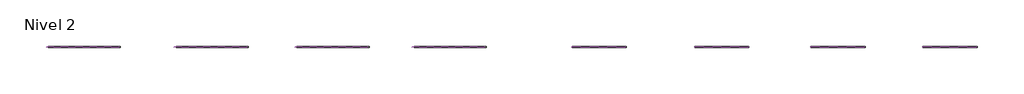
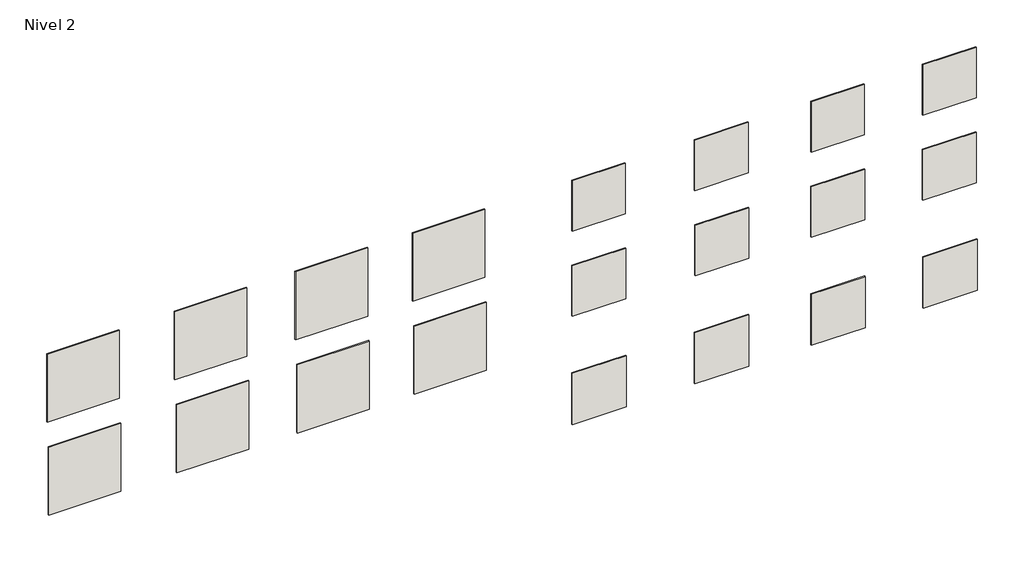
# One storey: 20 walls.
"""IFC4 building model written with IfcOpenShell, lengths in millimetres."""

from ifc_helpers import new_model, si_unit, frame, origin, place, context, project, spatial, polyline, outline, extrude, element, save

model = new_model("IFC4")

# Units and contexts
model_context = context("Model", 3, world=origin())
ifc_project = project(units=[si_unit("LENGTHUNIT", "METRE", prefix="MILLI")], contexts=[model_context])

# Site, building, storey
site = spatial("IfcSite", under=ifc_project)
building = spatial("IfcBuilding", under=site)
storey = spatial("IfcBuildingStorey", under=building, Name="Nivel 2", Elevation=3000.0)

# Walls
placement = place(None, origin())
element("IfcWall", 1, ObjectType="VIVES - PORTOFINO CEMENTO 60X60", at=placement, inside=storey, context=model_context, shape_type="SweptSolid", body=[
    extrude(outline(polyline([(3418.0966813, 488.6915317), (2818.0966813, 488.6915317), (2818.0966813, 498.6915317), (3418.0966813, 498.6915317), (3418.0966813, 488.6915317)])), frame((0.0, 0.0, 2300.0), z_axis=(0.0, 0.0, 1.0), x_axis=(1.0, 0.0, 0.0)), (0.0, 0.0, 1.0), 600.0),
])
element("IfcWall", 2, ObjectType="VIVES - PORTOFINO GRAFITO 60X60", at=placement, inside=storey, context=model_context, shape_type="SweptSolid", body=[
    extrude(outline(polyline([(4779.8466813, 488.6915317), (4179.8466813, 488.6915317), (4179.8466813, 498.6915317), (4779.8466813, 498.6915317), (4779.8466813, 488.6915317)])), frame((0.0, 0.0, 2300.0), z_axis=(0.0, 0.0, 1.0), x_axis=(1.0, 0.0, 0.0)), (0.0, 0.0, 1.0), 600.0),
])
element("IfcWall", 3, ObjectType="VIVES - PORTOFINO CREMA 60X60", at=placement, inside=storey, context=model_context, shape_type="SweptSolid", body=[
    extrude(outline(polyline([(6069.8466813, 488.6915317), (5469.8466813, 488.6915317), (5469.8466813, 498.6915317), (6069.8466813, 498.6915317), (6069.8466813, 488.6915317)])), frame((0.0, 0.0, 2300.0), z_axis=(0.0, 0.0, 1.0), x_axis=(1.0, 0.0, 0.0)), (0.0, 0.0, 1.0), 600.0),
])
element("IfcWall", 4, ObjectType="VIVES - PORTOFINO HUMO 60X60", at=placement, inside=storey, context=model_context, shape_type="SweptSolid", body=[
    extrude(outline(polyline([(7318.0966813, 488.6915317), (6718.0966813, 488.6915317), (6718.0966813, 498.6915317), (7318.0966813, 498.6915317), (7318.0966813, 488.6915317)])), frame((0.0, 0.0, 2300.0), z_axis=(0.0, 0.0, 1.0), x_axis=(1.0, 0.0, 0.0)), (0.0, 0.0, 1.0), 600.0),
])
element("IfcWall", 5, ObjectType="VIVES - PORTOFINO-R HUMO 59,3X59,3", at=placement, inside=storey, context=model_context, shape_type="SweptSolid", body=[
    extrude(outline(polyline([(7302.8466813, 488.6915317), (6709.8466813, 488.6915317), (6709.8466813, 498.6915317), (7302.8466813, 498.6915317), (7302.8466813, 488.6915317)])), frame((0.0, 0.0, 4570.0), z_axis=(0.0, 0.0, 1.0), x_axis=(1.0, 0.0, 0.0)), (0.0, 0.0, 1.0), 593.0),
])
element("IfcWall", 6, ObjectType="VIVES - PORTOFINO-R CREMA 59,3X59,3", at=placement, inside=storey, context=model_context, shape_type="SweptSolid", body=[
    extrude(outline(polyline([(6062.8466813, 488.6915317), (5469.8466813, 488.6915317), (5469.8466813, 498.6915317), (6062.8466813, 498.6915317), (6062.8466813, 488.6915317)])), frame((0.0, 0.0, 4570.0), z_axis=(0.0, 0.0, 1.0), x_axis=(1.0, 0.0, 0.0)), (0.0, 0.0, 1.0), 593.0),
])
element("IfcWall", 7, ObjectType="VIVES - PORTOFINO-R GRAFITO 59,3X59,3", at=placement, inside=storey, context=model_context, shape_type="SweptSolid", body=[
    extrude(outline(polyline([(4772.8466813, 488.6915317), (4179.8466813, 488.6915317), (4179.8466813, 498.6915317), (4772.8466813, 498.6915317), (4772.8466813, 488.6915317)])), frame((0.0, 0.0, 4570.0), z_axis=(0.0, 0.0, 1.0), x_axis=(1.0, 0.0, 0.0)), (0.0, 0.0, 1.0), 593.0),
])
element("IfcWall", 8, ObjectType="VIVES - PORTOFINO-R CEMENTO 59,3X59,3", at=placement, inside=storey, context=model_context, shape_type="SweptSolid", body=[
    extrude(outline(polyline([(3407.8466813, 488.6915317), (2814.8466813, 488.6915317), (2814.8466813, 498.6915317), (3407.8466813, 498.6915317), (3407.8466813, 488.6915317)])), frame((0.0, 0.0, 4570.0), z_axis=(0.0, 0.0, 1.0), x_axis=(1.0, 0.0, 0.0)), (0.0, 0.0, 1.0), 593.0),
])
element("IfcWall", 9, ObjectType="VIVES - PORTOFINO-SPR HUMO 59,3X59,3", at=placement, inside=storey, context=model_context, shape_type="SweptSolid", body=[
    extrude(outline(polyline([(7306.0966813, 488.6915317), (6713.0966813, 488.6915317), (6713.0966813, 498.6915317), (7306.0966813, 498.6915317), (7306.0966813, 488.6915317)])), frame((0.0, 0.0, 3570.0), z_axis=(0.0, 0.0, 1.0), x_axis=(1.0, 0.0, 0.0)), (0.0, 0.0, 1.0), 593.0),
])
element("IfcWall", 10, ObjectType="VIVES - PORTOFINO-SPR CREMA 59,3X59,3", at=placement, inside=storey, context=model_context, shape_type="SweptSolid", body=[
    extrude(outline(polyline([(6066.0966813, 488.6915317), (5473.0966813, 488.6915317), (5473.0966813, 498.6915317), (6066.0966813, 498.6915317), (6066.0966813, 488.6915317)])), frame((0.0, 0.0, 3570.0), z_axis=(0.0, 0.0, 1.0), x_axis=(1.0, 0.0, 0.0)), (0.0, 0.0, 1.0), 593.0),
])
element("IfcWall", 11, ObjectType="VIVES - PORTOFINO-SPR GRAFITO 59,3X59,3", at=placement, inside=storey, context=model_context, shape_type="SweptSolid", body=[
    extrude(outline(polyline([(4776.0966813, 488.6915317), (4183.0966813, 488.6915317), (4183.0966813, 498.6915317), (4776.0966813, 498.6915317), (4776.0966813, 488.6915317)])), frame((0.0, 0.0, 3570.0), z_axis=(0.0, 0.0, 1.0), x_axis=(1.0, 0.0, 0.0)), (0.0, 0.0, 1.0), 593.0),
])
element("IfcWall", 12, ObjectType="VIVES - PORTOFINO-SPR CEMENTO 59,3X59,3", at=placement, inside=storey, context=model_context, shape_type="SweptSolid", body=[
    extrude(outline(polyline([(3411.0966813, 488.6915317), (2818.0966813, 488.6915317), (2818.0966813, 498.6915317), (3411.0966813, 498.6915317), (3411.0966813, 488.6915317)])), frame((0.0, 0.0, 3570.0), z_axis=(0.0, 0.0, 1.0), x_axis=(1.0, 0.0, 0.0)), (0.0, 0.0, 1.0), 593.0),
])
element("IfcWall", 13, ObjectType="VIVES - PORTOFINO-R CEMENTO 80X80", at=placement, inside=storey, context=model_context, shape_type="SweptSolid", body=[
    extrude(outline(polyline([(-2216.9016277, 488.6915317), (-3016.9016277, 488.6915317), (-3016.9016277, 499.6915317), (-2216.9016277, 499.6915317), (-2216.9016277, 488.6915317)])), frame((0.0, 0.0, 4370.0), z_axis=(0.0, 0.0, 1.0), x_axis=(1.0, 0.0, 0.0)), (0.0, 0.0, 1.0), 800.0),
])
element("IfcWall", 14, ObjectType="VIVES - PORTOFINO-R GRAFITO 80X80", at=placement, inside=storey, context=model_context, shape_type="SweptSolid", body=[
    extrude(outline(polyline([(-796.9016277, 488.6915317), (-1596.9016277, 488.6915317), (-1596.9016277, 499.6915317), (-796.9016277, 499.6915317), (-796.9016277, 488.6915317)])), frame((0.0, 0.0, 4370.0), z_axis=(0.0, 0.0, 1.0), x_axis=(1.0, 0.0, 0.0)), (0.0, 0.0, 1.0), 800.0),
])
element("IfcWall", 15, ObjectType="VIVES - PORTOFINO-R CREMA 80X80", at=placement, inside=storey, context=model_context, shape_type="SweptSolid", body=[
    extrude(outline(polyline([(543.0983723, 488.6915317), (-256.9016277, 488.6915317), (-256.9016277, 499.6915317), (543.0983723, 499.6915317), (543.0983723, 488.6915317)])), frame((0.0, 0.0, 4370.0), z_axis=(0.0, 0.0, 1.0), x_axis=(1.0, 0.0, 0.0)), (0.0, 0.0, 1.0), 800.0),
])
element("IfcWall", 16, ObjectType="VIVES - PORTOFINO-R HUMO 80X80", at=placement, inside=storey, context=model_context, shape_type="SweptSolid", body=[
    extrude(outline(polyline([(1843.0983723, 488.6915317), (1043.0983723, 488.6915317), (1043.0983723, 499.6915317), (1843.0983723, 499.6915317), (1843.0983723, 488.6915317)])), frame((0.0, 0.0, 4370.0), z_axis=(0.0, 0.0, 1.0), x_axis=(1.0, 0.0, 0.0)), (0.0, 0.0, 1.0), 800.0),
])
element("IfcWall", 17, ObjectType="VIVES - PORTOFINO-SPR CEMENTO 80X80", at=placement, inside=storey, context=model_context, shape_type="SweptSolid", body=[
    extrude(outline(polyline([(-2196.9016277, 488.6915317), (-2996.9016277, 488.6915317), (-2996.9016277, 499.6915317), (-2196.9016277, 499.6915317), (-2196.9016277, 488.6915317)])), frame((0.0, 0.0, 3270.0), z_axis=(0.0, 0.0, 1.0), x_axis=(1.0, 0.0, 0.0)), (0.0, 0.0, 1.0), 800.0),
])
element("IfcWall", 18, ObjectType="VIVES - PORTOFINO-SPR GRAFITO 80X80", at=placement, inside=storey, context=model_context, shape_type="SweptSolid", body=[
    extrude(outline(polyline([(-776.9016277, 488.6915317), (-1576.9016277, 488.6915317), (-1576.9016277, 499.6915317), (-776.9016277, 499.6915317), (-776.9016277, 488.6915317)])), frame((0.0, 0.0, 3270.0), z_axis=(0.0, 0.0, 1.0), x_axis=(1.0, 0.0, 0.0)), (0.0, 0.0, 1.0), 800.0),
])
element("IfcWall", 19, ObjectType="VIVES - PORTOFINO-SPR CREMA 80X80", at=placement, inside=storey, context=model_context, shape_type="SweptSolid", body=[
    extrude(outline(polyline([(563.0983723, 488.6915317), (-236.9016277, 488.6915317), (-236.9016277, 499.6915317), (563.0983723, 499.6915317), (563.0983723, 488.6915317)])), frame((0.0, 0.0, 3270.0), z_axis=(0.0, 0.0, 1.0), x_axis=(1.0, 0.0, 0.0)), (0.0, 0.0, 1.0), 800.0),
])
element("IfcWall", 20, ObjectType="VIVES - PORTOFINO-SPR HUMO 80X80", at=placement, inside=storey, context=model_context, shape_type="SweptSolid", body=[
    extrude(outline(polyline([(1863.0983723, 488.6915317), (1063.0983723, 488.6915317), (1063.0983723, 499.6915317), (1863.0983723, 499.6915317), (1863.0983723, 488.6915317)])), frame((0.0, 0.0, 3270.0), z_axis=(0.0, 0.0, 1.0), x_axis=(1.0, 0.0, 0.0)), (0.0, 0.0, 1.0), 800.0),
])

save(model, "model.ifc")
